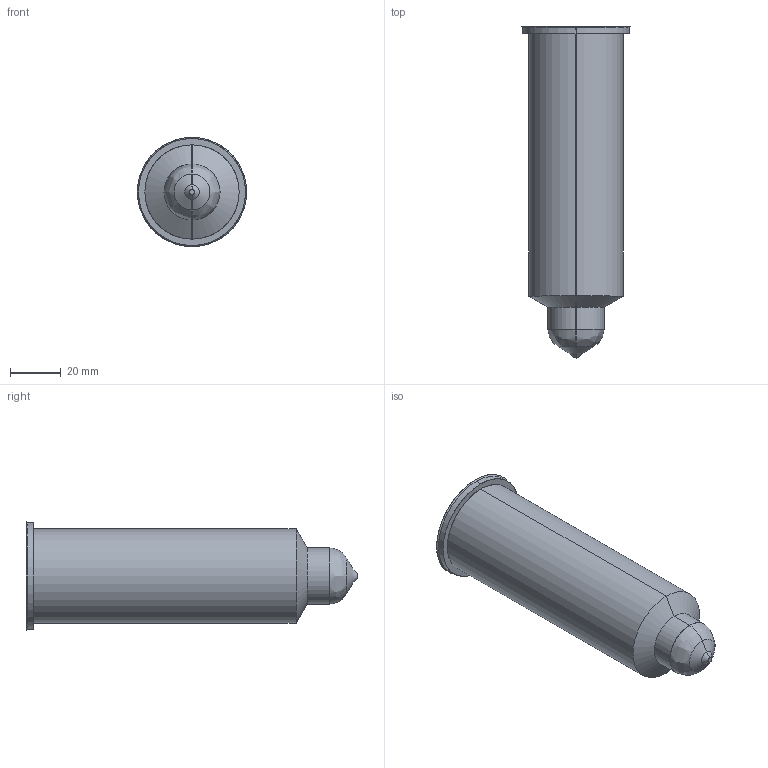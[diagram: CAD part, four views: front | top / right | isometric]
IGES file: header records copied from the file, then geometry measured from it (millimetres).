
Start section: SolidWorks IGES file using analytic representation for surfaces
Global section: file name: C:\Users\luca.EMPAD\Desktop\TEM\Sede UGDL3614-M-A C-127 L-145 Ød-2.0.IGS; native system: SolidWorks 2012; preprocessor: SolidWorks 2012; author: luca; date: 120330.161923; units: millimetre
Bounding box: 43 x 130.37 x 43 mm (x, y, z)
Surface area: 16254.5 mm2 (no closed solid volume)
Topology: 0 solids, 0 shells, 21 faces, 296 edges, 296 vertices
Faces by surface type: revolution 16, bspline 5
